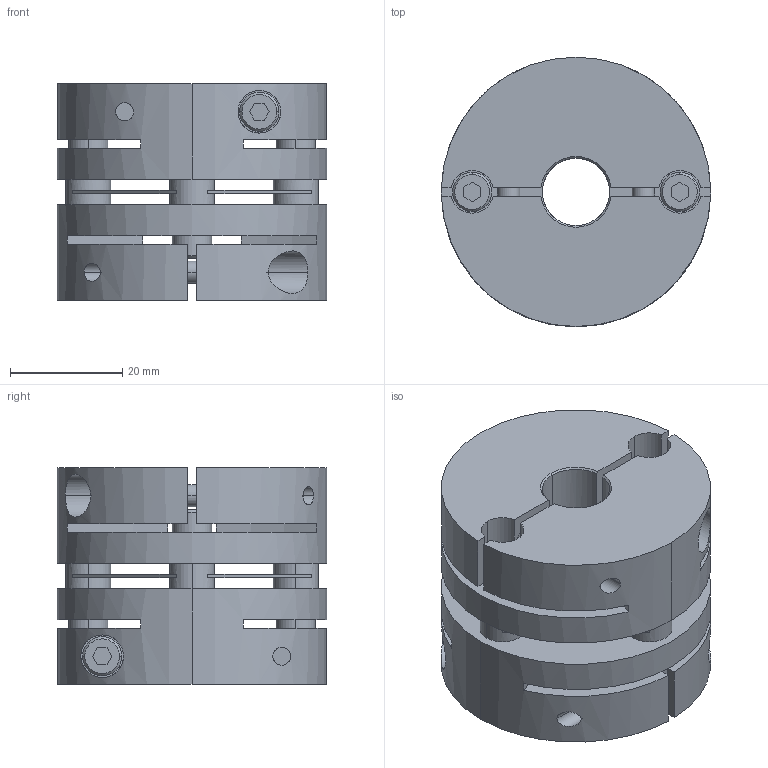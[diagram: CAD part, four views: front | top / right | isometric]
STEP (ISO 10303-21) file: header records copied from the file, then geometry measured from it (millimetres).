
FILE_DESCRIPTION((''),'2;1');
FILE_NAME('LAS-48C-12×20.stp','2011-08-09T16:56:51',(''),(''),'AutoCAD STEP 2000i','AutoCAD 2000i',', , ');
FILE_SCHEMA(('CONFIG_CONTROL_DESIGN'));
Length unit declared in the file: millimetre
Products named in the file (6): LAS-48C-12×19; 忣兜1; LA-4802-D19; LA-4802-D12-1; LA-4802-D12; LAS48-ITA
Assembly tree (5 placements, depth 2):
  LAS-48C-12×19
    忣兜1
    LA-4802-D19
    LA-4802-D12-1
    LA-4802-D12
    LAS48-ITA
Bounding box: 48 x 48 x 38.6 mm (x, y, z)
Volume: 48888.8 mm3; surface area: 22196.6 mm2
Topology: 1 solids, 1 shells, 224 faces, 600 edges, 392 vertices
Faces by surface type: plane 112, cylinder 84, cone 28
Entity records: 7841 total; most frequent: CARTESIAN_POINT 1878, DIRECTION 1256, ORIENTED_EDGE 1200, EDGE_CURVE 600, AXIS2_PLACEMENT_3D 458, VERTEX_POINT 392, VECTOR 340, LINE 340
